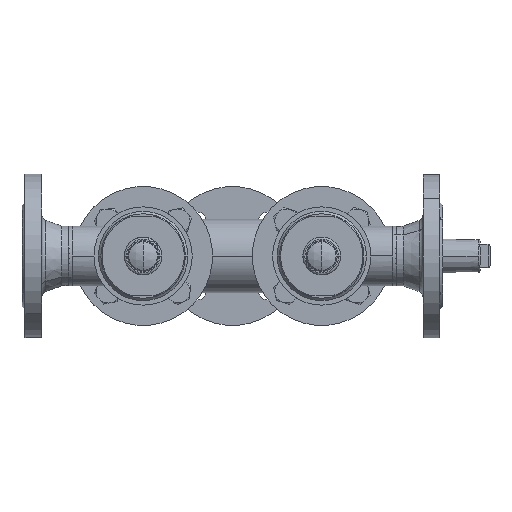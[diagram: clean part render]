
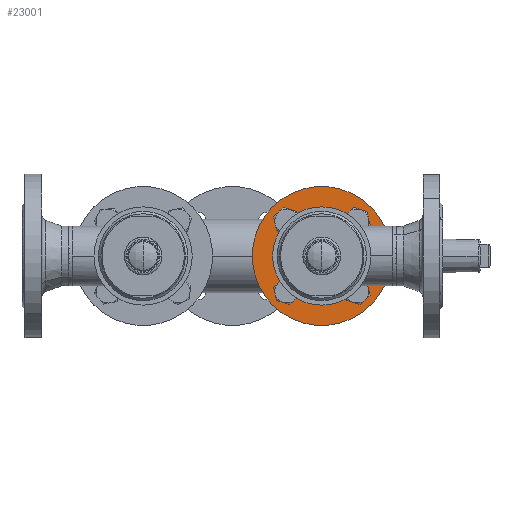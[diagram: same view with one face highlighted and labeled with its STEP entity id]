
A CAD part, left-side view. The second image highlights one B-rep face of the part: STEP entity #23001.
In plain terms, the highlighted planar face has unit normal (-1, 0, 0) as drawn and (0, 1, 0) by its records, which use the part's own axes.
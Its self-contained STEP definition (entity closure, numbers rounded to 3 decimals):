
#217 = EDGE_CURVE ( 'NONE', #14520, #12220, #35419, .T. ) ;
#33003 = EDGE_CURVE ( 'NONE', #36057, #18681, #30219, .T. ) ;
#291 = CARTESIAN_POINT ( 'NONE',  ( 59., 18., 0. ) ) ;
#16841 = EDGE_CURVE ( 'NONE', #18681, #36057, #21136, .T. ) ;
#16915 = EDGE_CURVE ( 'NONE', #7085, #9616, #21144, .T. ) ;
#33522 = CARTESIAN_POINT ( 'NONE',  ( 9., 18., 50. ) ) ;
#33769 = ORIENTED_EDGE ( 'NONE', *, *, #33003, .F. ) ;
#1146 = VERTEX_POINT ( 'NONE', #38690 ) ;
#33978 = CARTESIAN_POINT ( 'NONE',  ( -9., 18., 50. ) ) ;
#1309 = ORIENTED_EDGE ( 'NONE', *, *, #217, .T. ) ;
#17685 = ORIENTED_EDGE ( 'NONE', *, *, #16915, .F. ) ;
#1800 = EDGE_CURVE ( 'NONE', #4402, #1146, #39393, .T. ) ;
#34843 = EDGE_LOOP ( 'NONE', ( #33769, #31904 ) ) ;
#18681 = VERTEX_POINT ( 'NONE', #33522 ) ;
#18752 = EDGE_LOOP ( 'NONE', ( #17685, #35360 ) ) ;
#18798 = CARTESIAN_POINT ( 'NONE',  ( 70., 18., 0. ) ) ;
#35360 = ORIENTED_EDGE ( 'NONE', *, *, #7730, .F. ) ;
#35419 = CIRCLE ( 'NONE', #35420, 70. ) ;
#35420 = AXIS2_PLACEMENT_3D ( 'NONE', #35421, #35422, #35423 ) ;
#35421 = CARTESIAN_POINT ( 'NONE',  ( 0., 18., 0. ) ) ;
#35422 = DIRECTION ( 'NONE',  ( 0., 1., 0. ) ) ;
#35423 = DIRECTION ( 'NONE',  ( -1., 0., 0. ) ) ;
#19248 = ORIENTED_EDGE ( 'NONE', *, *, #39432, .F. ) ;
#36035 = CIRCLE ( 'NONE', #36036, 9. ) ;
#36036 = AXIS2_PLACEMENT_3D ( 'NONE', #36037, #36038, #36039 ) ;
#36037 = CARTESIAN_POINT ( 'NONE',  ( 0., 18., -50. ) ) ;
#36038 = DIRECTION ( 'NONE',  ( 0., 1., 0. ) ) ;
#36039 = DIRECTION ( 'NONE',  ( 0., 0., 1. ) ) ;
#36057 = VERTEX_POINT ( 'NONE', #33978 ) ;
#3318 = ORIENTED_EDGE ( 'NONE', *, *, #12674, .T. ) ;
#20677 = EDGE_CURVE ( 'NONE', #38779, #42034, #36035, .T. ) ;
#4402 = VERTEX_POINT ( 'NONE', #291 ) ;
#37441 = CARTESIAN_POINT ( 'NONE',  ( -32.147, 18., 0. ) ) ;
#21136 = CIRCLE ( 'NONE', #21137, 9. ) ;
#21137 = AXIS2_PLACEMENT_3D ( 'NONE', #21138, #21139, #21140 ) ;
#21138 = CARTESIAN_POINT ( 'NONE',  ( 0., 18., 50. ) ) ;
#21139 = DIRECTION ( 'NONE',  ( 0., 1., 0. ) ) ;
#21140 = DIRECTION ( 'NONE',  ( 0., 0., -1. ) ) ;
#21144 = CIRCLE ( 'NONE', #21145, 9. ) ;
#21145 = AXIS2_PLACEMENT_3D ( 'NONE', #21146, #21147, #21148 ) ;
#21146 = CARTESIAN_POINT ( 'NONE',  ( -50., 18., 0. ) ) ;
#21147 = DIRECTION ( 'NONE',  ( 0., 1., 0. ) ) ;
#21148 = DIRECTION ( 'NONE',  ( 1., 0., 0. ) ) ;
#21207 = VERTEX_POINT ( 'NONE', #37441 ) ;
#4860 = EDGE_LOOP ( 'NONE', ( #3318, #1309 ) ) ;
#4912 = CARTESIAN_POINT ( 'NONE',  ( -59., 18., 0. ) ) ;
#21435 = ORIENTED_EDGE ( 'NONE', *, *, #20677, .F. ) ;
#21670 = EDGE_CURVE ( 'NONE', #23501, #21207, #38374, .T. ) ;
#5552 = ORIENTED_EDGE ( 'NONE', *, *, #21670, .F. ) ;
#38374 = CIRCLE ( 'NONE', #38375, 32.147 ) ;
#38375 = AXIS2_PLACEMENT_3D ( 'NONE', #38376, #38377, #38378 ) ;
#38376 = CARTESIAN_POINT ( 'NONE',  ( 0., 18., 0. ) ) ;
#38377 = DIRECTION ( 'NONE',  ( 0., 1., 0. ) ) ;
#38378 = DIRECTION ( 'NONE',  ( -1., 0., 0. ) ) ;
#5636 = CIRCLE ( 'NONE', #5675, 9. ) ;
#5675 = AXIS2_PLACEMENT_3D ( 'NONE', #5676, #5677, #5678 ) ;
#5676 = CARTESIAN_POINT ( 'NONE',  ( -50., 18., 0. ) ) ;
#5677 = DIRECTION ( 'NONE',  ( 0., 1., 0. ) ) ;
#5678 = DIRECTION ( 'NONE',  ( 1., 0., 0. ) ) ;
#38690 = CARTESIAN_POINT ( 'NONE',  ( 41., 18., 0. ) ) ;
#38776 = CARTESIAN_POINT ( 'NONE',  ( -9., 18., -50. ) ) ;
#38779 = VERTEX_POINT ( 'NONE', #38776 ) ;
#22510 = EDGE_LOOP ( 'NONE', ( #21435, #19248 ) ) ;
#23001 = ADVANCED_FACE ( 'NONE', ( #40043, #40044, #40045, #40046, #40047, #40048 ), #40049, .F. ) ;
#39393 = CIRCLE ( 'NONE', #39394, 9. ) ;
#39394 = AXIS2_PLACEMENT_3D ( 'NONE', #39395, #39396, #39436 ) ;
#39395 = CARTESIAN_POINT ( 'NONE',  ( 50., 18., 0. ) ) ;
#39396 = DIRECTION ( 'NONE',  ( 0., 1., 0. ) ) ;
#39432 = EDGE_CURVE ( 'NONE', #42034, #38779, #39525, .T. ) ;
#39436 = DIRECTION ( 'NONE',  ( -1., 0., 0. ) ) ;
#39525 = CIRCLE ( 'NONE', #39526, 9. ) ;
#39526 = AXIS2_PLACEMENT_3D ( 'NONE', #39527, #39528, #39529 ) ;
#39527 = CARTESIAN_POINT ( 'NONE',  ( 0., 18., -50. ) ) ;
#39528 = DIRECTION ( 'NONE',  ( 0., 1., 0. ) ) ;
#39529 = DIRECTION ( 'NONE',  ( 0., 0., 1. ) ) ;
#23260 = CIRCLE ( 'NONE', #23261, 9. ) ;
#23261 = AXIS2_PLACEMENT_3D ( 'NONE', #23287, #23288, #23289 ) ;
#23287 = CARTESIAN_POINT ( 'NONE',  ( 50., 18., 0. ) ) ;
#23288 = DIRECTION ( 'NONE',  ( 0., 1., 0. ) ) ;
#23289 = DIRECTION ( 'NONE',  ( -1., 0., 0. ) ) ;
#7085 = VERTEX_POINT ( 'NONE', #4912 ) ;
#23501 = VERTEX_POINT ( 'NONE', #40870 ) ;
#40043 = FACE_BOUND ( 'NONE', #22510, .T. ) ;
#40044 = FACE_BOUND ( 'NONE', #18752, .T. ) ;
#40045 = FACE_BOUND ( 'NONE', #34843, .T. ) ;
#40046 = FACE_BOUND ( 'NONE', #31410, .T. ) ;
#40047 = FACE_BOUND ( 'NONE', #28001, .T. ) ;
#40048 = FACE_OUTER_BOUND ( 'NONE', #4860, .T. ) ;
#40049 = PLANE ( 'NONE',  #40050 ) ;
#40050 = AXIS2_PLACEMENT_3D ( 'NONE', #40051, #40052, #40053 ) ;
#40051 = CARTESIAN_POINT ( 'NONE',  ( 70., 18., 0. ) ) ;
#40052 = DIRECTION ( 'NONE',  ( 0., -1., 0. ) ) ;
#40053 = DIRECTION ( 'NONE',  ( 1., 0., 0. ) ) ;
#23807 = EDGE_CURVE ( 'NONE', #21207, #23501, #9760, .T. ) ;
#7730 = EDGE_CURVE ( 'NONE', #9616, #7085, #5636, .T. ) ;
#40870 = CARTESIAN_POINT ( 'NONE',  ( 32.147, 18., 0. ) ) ;
#42034 = VERTEX_POINT ( 'NONE', #42729 ) ;
#9616 = VERTEX_POINT ( 'NONE', #11570 ) ;
#9760 = CIRCLE ( 'NONE', #9761, 32.147 ) ;
#9761 = AXIS2_PLACEMENT_3D ( 'NONE', #9762, #9763, #9764 ) ;
#9762 = CARTESIAN_POINT ( 'NONE',  ( 0., 18., 0. ) ) ;
#9763 = DIRECTION ( 'NONE',  ( 0., 1., 0. ) ) ;
#9764 = DIRECTION ( 'NONE',  ( -1., 0., 0. ) ) ;
#42729 = CARTESIAN_POINT ( 'NONE',  ( 9., 18., -50. ) ) ;
#26934 = ORIENTED_EDGE ( 'NONE', *, *, #23807, .F. ) ;
#11570 = CARTESIAN_POINT ( 'NONE',  ( -41., 18., 0. ) ) ;
#28001 = EDGE_LOOP ( 'NONE', ( #26934, #5552 ) ) ;
#28500 = ORIENTED_EDGE ( 'NONE', *, *, #1800, .F. ) ;
#12220 = VERTEX_POINT ( 'NONE', #14761 ) ;
#12674 = EDGE_CURVE ( 'NONE', #12220, #14520, #15181, .T. ) ;
#29574 = EDGE_CURVE ( 'NONE', #1146, #4402, #23260, .T. ) ;
#30219 = CIRCLE ( 'NONE', #30220, 9. ) ;
#30220 = AXIS2_PLACEMENT_3D ( 'NONE', #30221, #30222, #30223 ) ;
#30221 = CARTESIAN_POINT ( 'NONE',  ( 0., 18., 50. ) ) ;
#30222 = DIRECTION ( 'NONE',  ( 0., 1., 0. ) ) ;
#30223 = DIRECTION ( 'NONE',  ( 0., 0., -1. ) ) ;
#30344 = ORIENTED_EDGE ( 'NONE', *, *, #29574, .F. ) ;
#14520 = VERTEX_POINT ( 'NONE', #18798 ) ;
#14761 = CARTESIAN_POINT ( 'NONE',  ( -70., 18., 0. ) ) ;
#31410 = EDGE_LOOP ( 'NONE', ( #30344, #28500 ) ) ;
#15181 = CIRCLE ( 'NONE', #15182, 70. ) ;
#15182 = AXIS2_PLACEMENT_3D ( 'NONE', #15183, #15184, #15204 ) ;
#15183 = CARTESIAN_POINT ( 'NONE',  ( 0., 18., 0. ) ) ;
#15184 = DIRECTION ( 'NONE',  ( 0., 1., 0. ) ) ;
#15204 = DIRECTION ( 'NONE',  ( -1., 0., 0. ) ) ;
#31904 = ORIENTED_EDGE ( 'NONE', *, *, #16841, .F. ) ;
